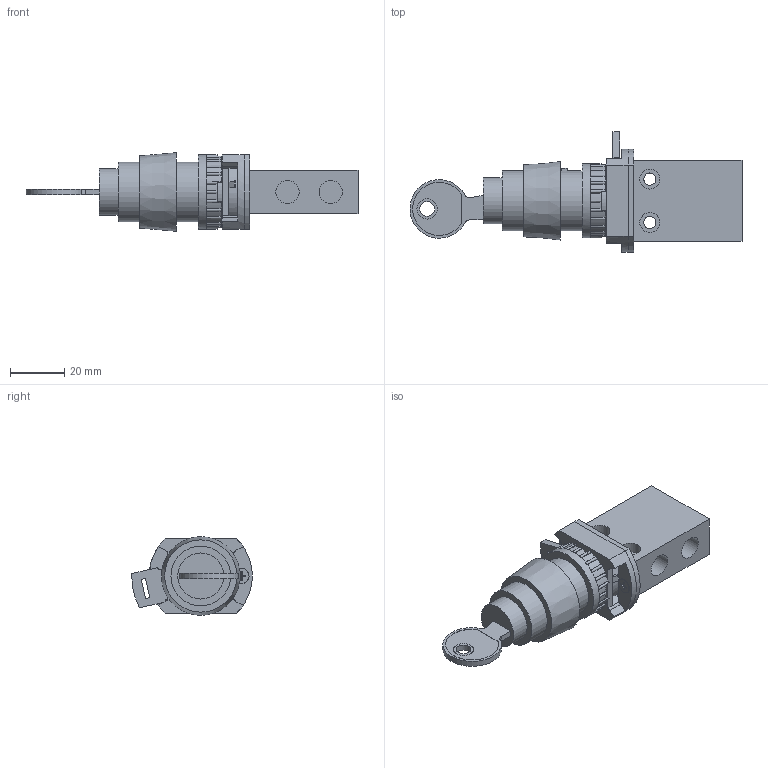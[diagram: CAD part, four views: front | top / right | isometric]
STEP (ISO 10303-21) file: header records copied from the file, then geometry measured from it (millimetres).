
FILE_DESCRIPTION (( 'STEP AP214' ), '1' );
FILE_NAME ('18-T-23-014---T-28-311_Airtec.step', '2018-11-15T13:12:35', ( '' ), ( '' ), 'SwSTEP 2.0', 'SolidWorks 2010', '' );
FILE_SCHEMA (( 'AUTOMOTIVE_DESIGN' ));
Length unit declared in the file: millimetre
Products named in the file (3): 18-T-23-014-Airtec; T-28-311_161115; 18-T-23-014---T-28-311_Airtec
Assembly tree (2 placements, depth 2):
  18-T-23-014---T-28-311_Airtec
    18-T-23-014-Airtec
    T-28-311_161115
Bounding box: 122.47 x 44.48 x 29 mm (x, y, z)
Volume: 44934.1 mm3; surface area: 17281.7 mm2
Topology: 2 solids, 2 shells, 444 faces, 1170 edges, 757 vertices
Faces by surface type: plane 214, cylinder 166, cone 47, torus 17
Full cylindrical faces by diameter (mm): 2.013 x1, 2.459 x4, 2.693 x2, 3 x1, 3.2 x2, 4.5 x2, 4.7 x1, 5.5 x4, 5.7 x2, 6 x1, 7.4 x4, 7.5 x2, 8.566 x3, 10 x1, 10.5 x1, 16 x1, 17 x1, 20 x1, 20.3 x1, 22 x2, 27.4 x1
Entity records: 13954 total; most frequent: CARTESIAN_POINT 2944, DIRECTION 2396, ORIENTED_EDGE 2190, EDGE_CURVE 1095, AXIS2_PLACEMENT_3D 950, VERTEX_POINT 740, EDGE_LOOP 545, CIRCLE 501
